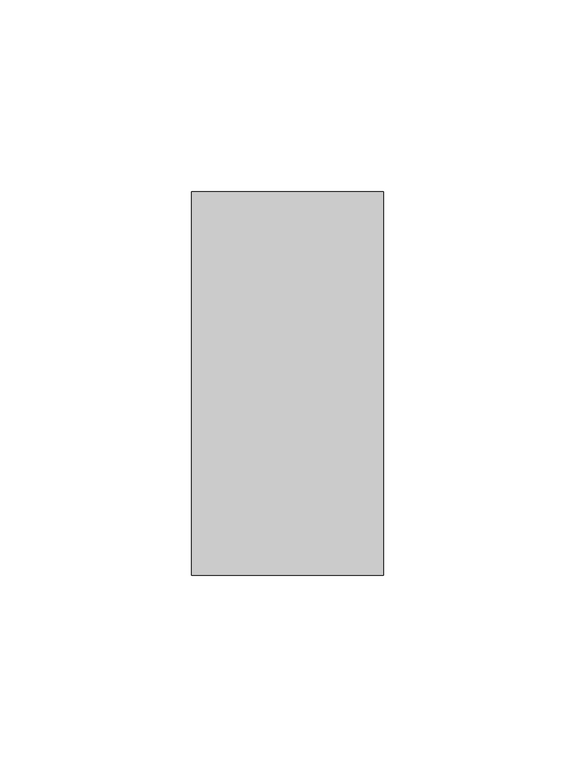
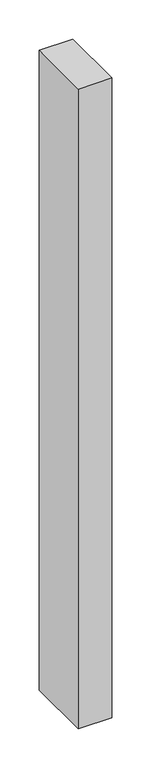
"""IFC4 building model written with IfcOpenShell, lengths in millimetres: member geometry, Прямоугольный импост : 50х100."""

import ifcopenshell
import ifcopenshell.guid

model = None  # the IFC model being written
_history = None  # IfcOwnerHistory: only IFC2X3 demands one
_inside = {}  # id of a spatial element -> (the spatial element, [elements in it])
_under = {}  # id of a project, library or spatial element -> (it, [spatial elements below it])
_declared = {}  # id of a project -> (the project, [libraries it declares])
_typed = {}  # id of a type object -> (the type object, [elements of that type])
_made_of = {}  # id of a material, layer set ... -> (it, [elements and type objects made of it])


def new_model(schema):
    """Start an empty IFC model of exactly this schema.

    Asked for "IFC4X3", IfcOpenShell would pick the latest addendum, in which some entities
    have other attributes; the version numbers below select the first issue.
    IFC2X3 requires an IfcOwnerHistory on every rooted entity: one is made here for all.
    """
    global model, _history
    if schema == "IFC4X3":
        model = ifcopenshell.file(schema_version=(4, 3, 0, 0))
    else:
        model = ifcopenshell.file(schema=schema)
    _inside.clear()
    _under.clear()
    _declared.clear()
    _typed.clear()
    _made_of.clear()
    _history = None
    if model.schema == "IFC2X3":
        org = make("IfcOrganization", Name="unknown")
        user = make(
            "IfcPersonAndOrganization",
            ThePerson=make("IfcPerson", FamilyName="unknown"),
            TheOrganization=org,
        )
        app = make(
            "IfcApplication",
            ApplicationDeveloper=org,
            Version="unknown",
            ApplicationFullName="unknown",
            ApplicationIdentifier="unknown",
        )
        _history = make(
            "IfcOwnerHistory",
            OwningUser=user,
            OwningApplication=app,
            ChangeAction="ADDED",
            CreationDate=0,
        )
    return model


def make(cls, **values):
    """One entity of the class cls with the attributes given. An attribute that is None is left unset."""
    return model.create_entity(
        cls, **{name: value for name, value in values.items() if value is not None}
    )


def rooted(cls, **values):
    """An entity with a GlobalId (a new one), such as an element, a storey or a relation."""
    return make(cls, GlobalId=ifcopenshell.guid.new(), OwnerHistory=_history, **values)


def si_unit(unit_type, name, prefix=None):
    """IfcSIUnit, for example si_unit("LENGTHUNIT", "METRE", prefix="MILLI")."""
    return make("IfcSIUnit", UnitType=unit_type, Prefix=prefix, Name=name)


def assignment(units):
    """IfcUnitAssignment: the units of a project."""
    return None if units is None else make("IfcUnitAssignment", Units=units)


def point(xyz):
    """IfcCartesianPoint."""
    return None if xyz is None else make("IfcCartesianPoint", Coordinates=xyz)


def direction(xyz):
    """IfcDirection."""
    return None if xyz is None else make("IfcDirection", DirectionRatios=xyz)


def frame(location, z_axis=None, x_axis=None):
    """IfcAxis2Placement3D, a coordinate frame: its origin and axes. An axis left out is left unset."""
    return make(
        "IfcAxis2Placement3D",
        Location=point(location),
        Axis=direction(z_axis),
        RefDirection=direction(x_axis),
    )


def origin():
    """The frame at (0, 0, 0) with its axes left unset."""
    return frame((0.0, 0.0, 0.0))


def place(relative_to, where):
    """IfcLocalPlacement: puts the frame where relative to a parent placement (None: the world)."""
    return make(
        "IfcLocalPlacement", PlacementRelTo=relative_to, RelativePlacement=where
    )


def context(
    kind, dimensions, precision=None, world=None, true_north=None, identifier=None
):
    """IfcGeometricRepresentationContext, for example the 3D "Model" context."""
    return make(
        "IfcGeometricRepresentationContext",
        ContextIdentifier=identifier,
        ContextType=kind,
        CoordinateSpaceDimension=dimensions,
        Precision=precision,
        WorldCoordinateSystem=world,
        TrueNorth=true_north,
    )


def project(units=None, contexts=None):
    """IfcProject with its units and contexts."""
    return rooted(
        "IfcProject",
        Name="project",
        RepresentationContexts=contexts,
        UnitsInContext=assignment(units),
    )


def spatial(cls, under=None, at=None, **own):
    """A site, building, storey or space (cls), placed at a placement, below another one or the project."""
    s = rooted(cls, ObjectPlacement=at, **own)
    if under is not None:
        _under.setdefault(under.id(), (under, []))[1].append(s)
    return s


def polyline(points):
    """IfcPolyline through the points."""
    return make("IfcPolyline", Points=[point(p) for p in points])


def outline(outer, holes=None, kind="AREA"):
    """IfcArbitraryClosedProfileDef: a profile drawn as a closed curve; with holes, ...WithVoids."""
    if holes is None:
        return make("IfcArbitraryClosedProfileDef", ProfileType=kind, OuterCurve=outer)
    return make(
        "IfcArbitraryProfileDefWithVoids",
        ProfileType=kind,
        OuterCurve=outer,
        InnerCurves=holes,
    )


def extrude(swept, where, along, depth):
    """IfcExtrudedAreaSolid: the profile swept, set in the frame where, extruded along a direction by depth."""
    return make(
        "IfcExtrudedAreaSolid",
        SweptArea=swept,
        Position=where,
        ExtrudedDirection=direction(along),
        Depth=depth,
    )


def shape(context_of_items, identifier, shape_type, items):
    """IfcShapeRepresentation: the items that make up one representation, for example the "Body"."""
    return make(
        "IfcShapeRepresentation",
        ContextOfItems=context_of_items,
        RepresentationIdentifier=identifier,
        RepresentationType=shape_type,
        Items=items,
    )


def source(mapping_origin, context_of_items, identifier, shape_type, items):
    """IfcRepresentationMap: a shape defined once, which mapped items show again and again."""
    return make(
        "IfcRepresentationMap",
        MappingOrigin=mapping_origin,
        MappedRepresentation=shape(context_of_items, identifier, shape_type, items),
    )


def transform(
    local_origin,
    x_axis=None,
    y_axis=None,
    z_axis=None,
    scale=None,
    scale2=None,
    scale3=None,
    uniform=True,
):
    """IfcCartesianTransformationOperator3D, or its non-uniform kind. x_axis, y_axis, z_axis: its Axis1, 2, 3."""
    if uniform:
        return make(
            "IfcCartesianTransformationOperator3D",
            Axis1=direction(x_axis),
            Axis2=direction(y_axis),
            LocalOrigin=point(local_origin),
            Scale=scale,
            Axis3=direction(z_axis),
        )
    return make(
        "IfcCartesianTransformationOperator3DnonUniform",
        Axis1=direction(x_axis),
        Axis2=direction(y_axis),
        LocalOrigin=point(local_origin),
        Scale=scale,
        Axis3=direction(z_axis),
        Scale2=scale2,
        Scale3=scale3,
    )


def mapped(mapping_source, mapping_target):
    """IfcMappedItem: shows the shape of a source again, moved by a transform."""
    return make(
        "IfcMappedItem", MappingSource=mapping_source, MappingTarget=mapping_target
    )


def made_of(thing, what):
    """Note that an element or type object is made of a material, layer set ...; save() writes the relation."""
    if what is not None:
        _made_of.setdefault(what.id(), (what, []))[1].append(thing)
    return thing


def element(
    cls,
    number,
    at=None,
    inside=None,
    cuts=None,
    type_object=None,
    material=None,
    context=None,
    identifier="Body",
    shape_type=None,
    held_by="IfcProductDefinitionShape",
    body=None,
    shapes=None,
    **own,
):
    """One element of the class cls, such as IfcWall. Its Tag is "e" and its number.

    at: its placement. inside: the storey or other place that contains it. cuts: it is an
    opening in that element (IfcRelVoidsElement). A single representation is given by context,
    identifier, shape_type and body (its items); several are given by shapes. held_by: the class
    of the entity that holds the representations. save() writes the other relations.
    """
    e = rooted(cls, Tag="e%d" % number, ObjectPlacement=at, **own)
    if body is not None:
        shapes = [shape(context, identifier, shape_type, body)]
    if shapes is not None:
        e.Representation = make(held_by, Representations=shapes)
    if inside is not None:
        _inside.setdefault(inside.id(), (inside, []))[1].append(e)
    if cuts is not None:
        rooted(
            "IfcRelVoidsElement", RelatingBuildingElement=cuts, RelatedOpeningElement=e
        )
    if type_object is not None:
        _typed.setdefault(type_object.id(), (type_object, []))[1].append(e)
    return made_of(e, material)


def aggregate(whole, parts):
    """IfcRelAggregates: a whole, such as a stair, and the parts it consists of."""
    return rooted("IfcRelAggregates", RelatingObject=whole, RelatedObjects=parts)


def save(model, path):
    """Write the relations noted so far, then the file.

    IfcRelAggregates (storeys below a building ...), IfcRelContainedInSpatialStructure (elements
    in a storey), IfcRelDefinesByType, IfcRelAssociatesMaterial and IfcRelDeclares: one each for
    every whole, place, type object, material and project.
    """
    for whole, parts in _under.values():
        aggregate(whole, parts)
    for where, things in _inside.values():
        rooted(
            "IfcRelContainedInSpatialStructure",
            RelatedElements=things,
            RelatingStructure=where,
        )
    for kind, things in _typed.values():
        rooted("IfcRelDefinesByType", RelatedObjects=things, RelatingType=kind)
    for what, things in _made_of.values():
        rooted("IfcRelAssociatesMaterial", RelatedObjects=things, RelatingMaterial=what)
    for by, libraries in _declared.values():
        rooted("IfcRelDeclares", RelatingContext=by, RelatedDefinitions=libraries)
    model.write(path)


def member_2e505431(model_context):
    return source(origin(), model_context, "Body", "SweptSolid", [
        extrude(outline(polyline([(0.0, 50.0), (0.0, -50.0), (-50.0, -50.0), (-50.0, 50.0), (0.0, 50.0)])), frame((0.0, 0.0, -999.9999997), z_axis=(0.0, 0.0, 1.0), x_axis=(1.0, 0.0, 0.0)), (0.0, 0.0, 1.0), 999.9999997),
    ])


if __name__ == "__main__":
    model = new_model("IFC4")
    model_context = context("Model", 3, world=origin())
    ifc_project = project(units=[si_unit("LENGTHUNIT", "METRE", prefix="MILLI")], contexts=[model_context])
    site = spatial("IfcSite", under=ifc_project)
    building = spatial("IfcBuilding", under=site)
    placement = place(None, origin())
    member_shape = member_2e505431(model_context)
    element("IfcMember", 1, ObjectType="Прямоугольный импост : 50х100", at=placement, inside=building, context=model_context, shape_type="MappedRepresentation", body=[
        mapped(member_shape, transform((0.0, 0.0, 0.0), x_axis=(1.0, 0.0, 0.0), y_axis=(0.0, 1.0, 0.0), z_axis=(0.0, 0.0, 1.0))),
    ])
    save(model, "model.ifc")
